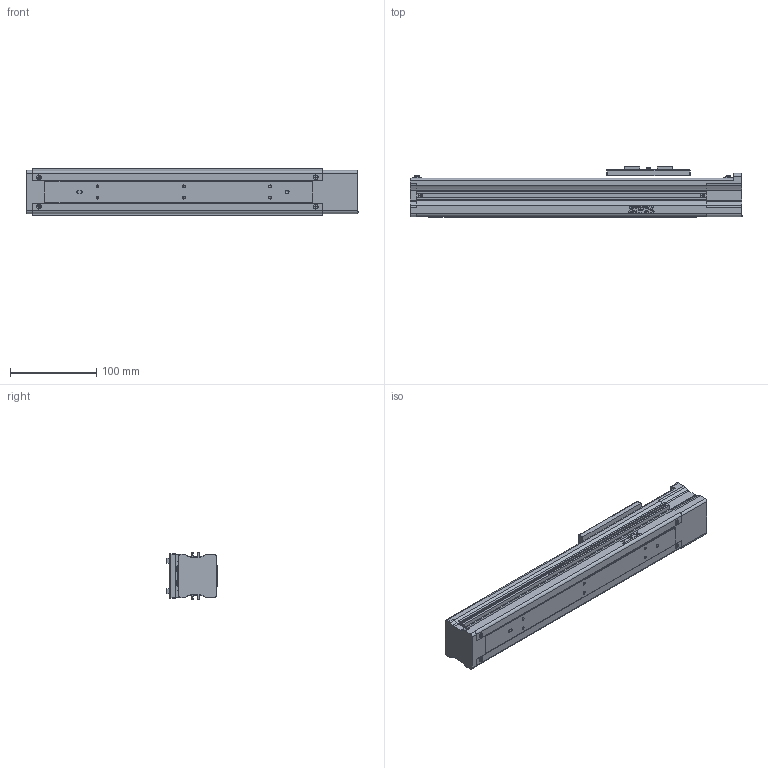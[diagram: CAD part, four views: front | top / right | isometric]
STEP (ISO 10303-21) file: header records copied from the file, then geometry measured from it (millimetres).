
FILE_DESCRIPTION(/* description */ (''),/* implementation_level */ '2;1');
FILE_NAME(/* name */ 'D:\混合母檔20191031\混和母檔\混和母檔\bin\Debug\Download\3D\KE504C-200AF0\KE504C-200AF0.stp',/* time_stamp */ '2019-11-04T13:39:50+08:00',/* author */ ('user'),/* organization */ (''),/* preprocessor_version */ 'ST-DEVELOPER v16.13',/* originating_system */ 'Autodesk Inventor 2018',/* authorisation */ '');
FILE_SCHEMA (('AUTOMOTIVE_DESIGN { 1 0 10303 214 3 1 1 }'));
Length unit declared in the file: millimetre
Products named in the file (3): KE504C-200AF0; KE50-F0-BP; KE50-SL
Assembly tree (2 placements, depth 2):
  KE504C-200AF0
    KE50-F0-BP
    KE50-SL
Bounding box: 385 x 58 x 54 mm (x, y, z)
Volume: 843627.9 mm3; surface area: 111028.8 mm2
Topology: 2 solids, 10 shells, 939 faces, 2559 edges, 1691 vertices
Faces by surface type: plane 462, cone 153, bspline 140, cylinder 116, torus 62, sphere 6
Full cylindrical faces by diameter (mm): 2.459 x4, 2.729 x6, 3 x2, 3.242 x14, 3.5 x4, 4 x3, 5.5 x4, 6 x1, 7.9 x1, 8 x1, 26 x1, 30 x1
Entity records: 33034 total; most frequent: CARTESIAN_POINT 10169, ORIENTED_EDGE 4864, DIRECTION 4375, EDGE_CURVE 2432, VERTEX_POINT 1652, AXIS2_PLACEMENT_3D 1490, LINE 1395, VECTOR 1395
